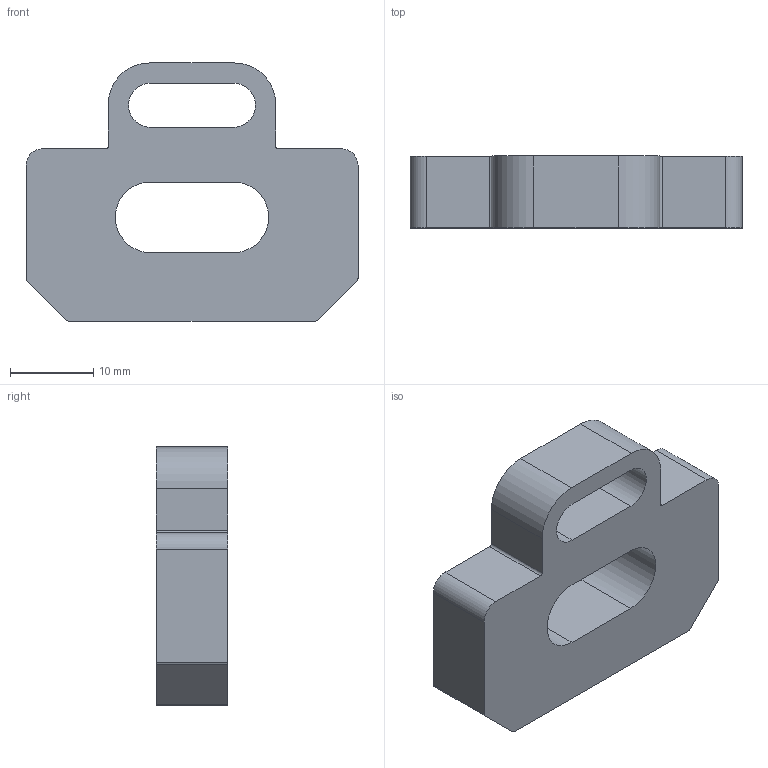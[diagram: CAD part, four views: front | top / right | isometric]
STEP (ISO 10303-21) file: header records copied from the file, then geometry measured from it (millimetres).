
FILE_DESCRIPTION(/* description */ (''),/* implementation_level */ '2;1');
FILE_NAME(/* name */ 'C:\_Vault\Workspace\Projektordner\03-Sensoren\02-STS\13-PSENml door handle module\03-Kundendaten\2029616_A_PSEN ml DHM mounting bracket.stp',/* time_stamp */ '2020-07-31T07:55:15+02:00',/* author */ ('mmus '),/* organization */ (''),/* preprocessor_version */ 'ST-DEVELOPER v18',/* originating_system */ 'Autodesk Inventor 2020',/* authorisation */ '');
FILE_SCHEMA (('AUTOMOTIVE_DESIGN { 1 0 10303 214 3 1 1 }'));
Length unit declared in the file: millimetre
Products named in the file (1): 2029616
Bounding box: 40 x 8.65 x 31.1 mm (x, y, z)
Volume: 6788.9 mm3; surface area: 3415.4 mm2
Topology: 1 solids, 1 shells, 30 faces, 84 edges, 56 vertices
Faces by surface type: plane 16, cylinder 14
Entity records: 1064 total; most frequent: DIRECTION 174, CARTESIAN_POINT 171, ORIENTED_EDGE 168, EDGE_CURVE 84, AXIS2_PLACEMENT_3D 59, LINE 56, VECTOR 56, VERTEX_POINT 56
